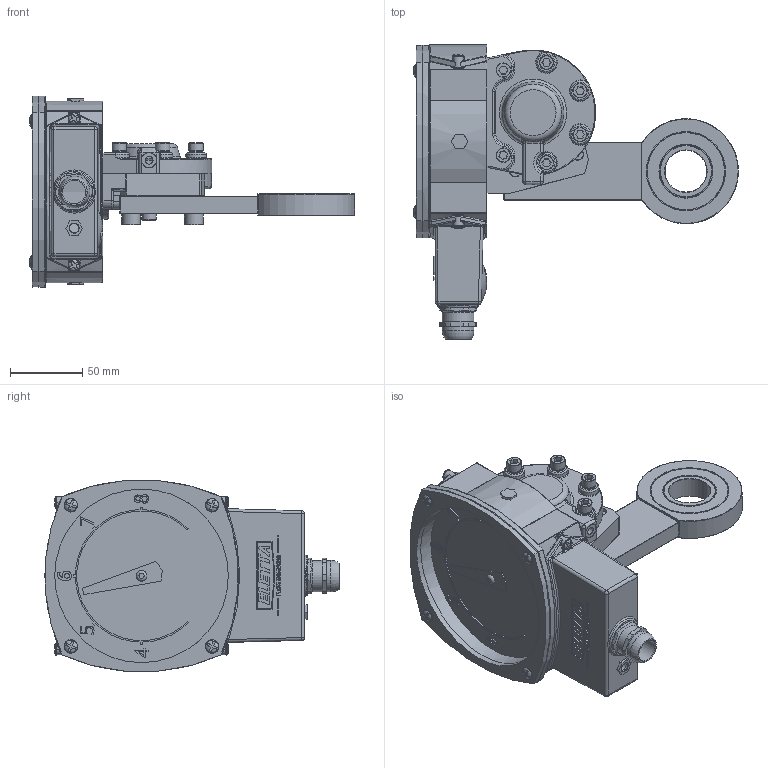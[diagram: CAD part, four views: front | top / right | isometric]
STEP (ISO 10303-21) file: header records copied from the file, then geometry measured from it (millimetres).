
FILE_DESCRIPTION(/* description */ ('Alibre Inc.'),/* implementation_level */ '2;1');
FILE_NAME(/* name */ 'export0',/* time_stamp */ '2012-10-19T10:53:58+02:00',/* author */ (''),/* organization */ (''),/* preprocessor_version */ 'ST-DEVELOPER v14',/* originating_system */ 'Alibre',/* authorisation */ '');
FILE_SCHEMA (('CONFIG_CONTROL_DESIGN'));
Length unit declared in the file: centimetre
Products named in the file (19): ID_1; ID_2; ID_3; ID_4; ID_5; ID_6; ID_7; ID_8; ID_9; ID_10; ID_11; ID_12; ID_13; ID_14
Bounding box: 225.61 x 204.33 x 132.88 mm (x, y, z)
Volume: 518637.5 mm3; surface area: 229653.7 mm2
Topology: 31 solids, 31 shells, 1723 faces, 4150 edges, 2558 vertices
Faces by surface type: plane 766, bspline 365, cylinder 322, torus 158, cone 86, sphere 26
Full cylindrical faces by diameter (mm): 3.9 x2, 5 x18, 5.2 x2, 5.5 x5, 5.541 x2, 6 x28, 6.35 x2, 6.5 x7, 8 x7, 8.5 x2, 9.6 x6, 10 x11, 10.5 x1, 12 x3, 13 x2, 14 x3, 16 x1, 19.5 x1, 22 x2, 22.5 x4, 25 x1, 29 x2, 31 x1, 36 x2, 37 x2, 54 x2, 55 x2, 120.5 x3, 123.4 x1, 129 x1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
Entity records: 60556 total; most frequent: CARTESIAN_POINT 28551, ORIENTED_EDGE 6474, DIRECTION 4845, EDGE_CURVE 3237, VERTEX_POINT 2118, AXIS2_PLACEMENT_3D 2016, EDGE_LOOP 1787, FACE_BOUND 1787
